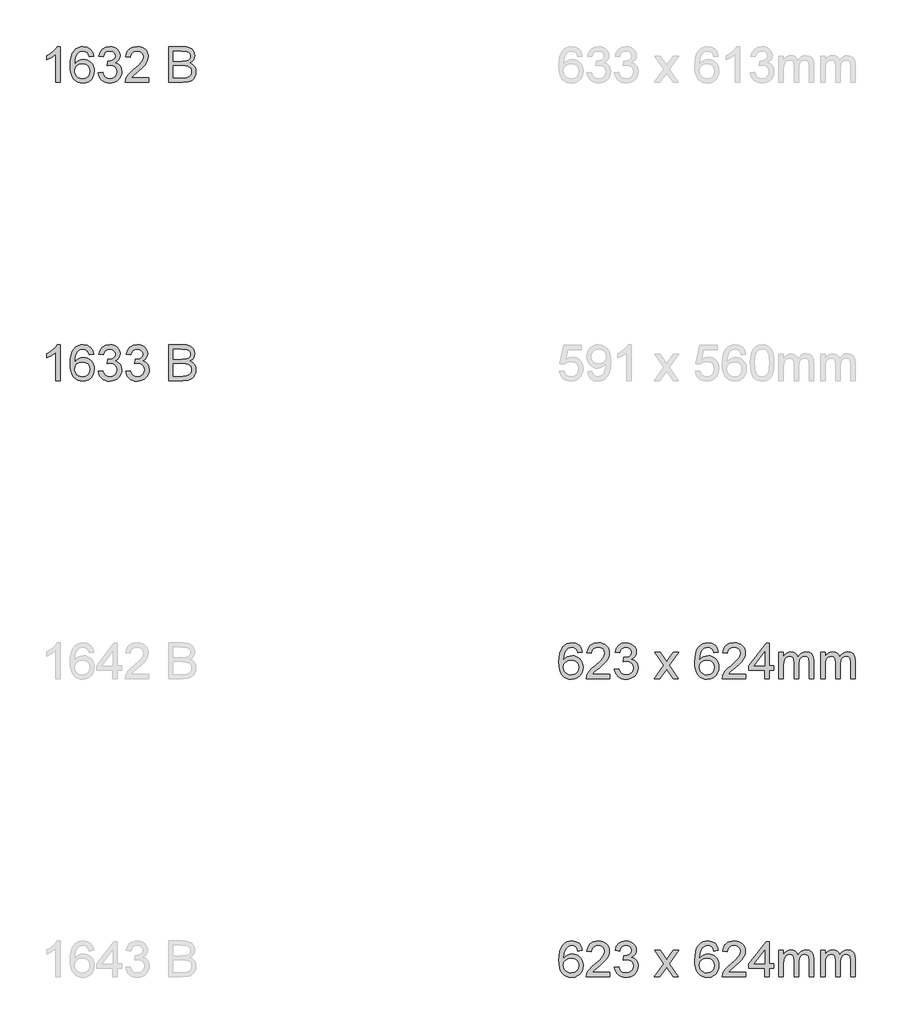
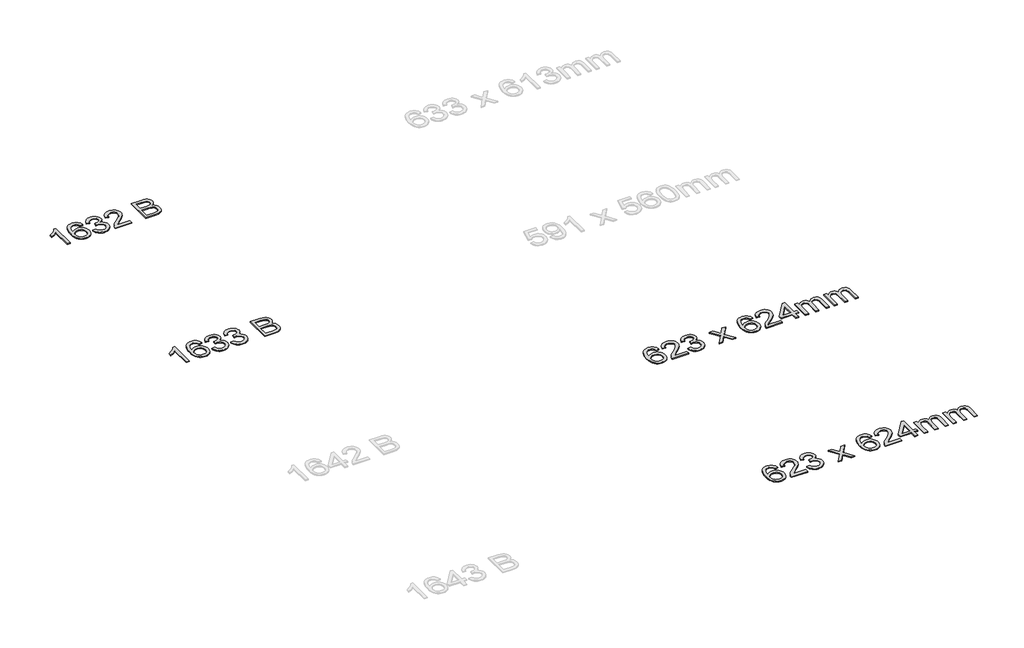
# One storey, part 27 of 39: 4 proxies.
"""IFC4 building model written with IfcOpenShell, lengths in millimetres."""

from ifc_helpers import new_model, si_unit, origin, origin_with_axes, place, context, project, spatial, polyline, outline, extrude, element, save

model = new_model("IFC4")

# Units and contexts
model_context = context("Model", 3, world=origin())
ifc_project = project(units=[si_unit("LENGTHUNIT", "METRE", prefix="MILLI")], contexts=[model_context])

# Site, building, storey
site = spatial("IfcSite", under=ifc_project)
building = spatial("IfcBuilding", under=site)
storey = spatial("IfcBuildingStorey", under=building, Name="Marelli - Linha PROFIT - Planta Baixa", Elevation=0.0)

# Proxies
placement = place(None, origin())
element("IfcBuildingElementProxy", 1, Name="300mm Arial", ObjectType="300mm Arial", at=placement, inside=storey, context=model_context, shape_type="SweptSolid", body=[
    extrude(outline(polyline([(-29517.1779543, -8280.5663201), (-29554.8490706, -8280.5663201), (-29554.8490706, -8045.7104543), (-29590.5336241, -8071.1311002), (-29630.1913032, -8090.1505994), (-29630.1913032, -8054.5396222), (-29600.6043938, -8038.4447849), (-29574.9722158, -8019.2965271), (-29554.7662972, -7998.9342587), (-29541.458166, -7979.1973896), (-29517.1779543, -7979.1973896), (-29517.1779543, -8280.5663201)])), origin_with_axes(), (0.0, 0.0, 1.0), 10.0),
    extrude(outline(polyline([(-29234.644582, -8059.2485118), (-29272.3156983, -8063.9574013), (-29278.3857512, -8045.2873901), (-29286.5895197, -8032.5402789), (-29303.6776384, -8020.7864492), (-29324.3342124, -8016.8685059), (-29341.8453954, -8019.1493743), (-29358.3265088, -8025.9919794), (-29372.4807686, -8040.4037566), (-29384.0414603, -8060.2417932), (-29391.8497556, -8088.3019923), (-29394.7468263, -8127.3802573), (-29379.6360734, -8109.7495127), (-29361.5270821, -8097.3242983), (-29341.4315282, -8089.9574613), (-29320.3610869, -8087.501849), (-29302.2612927, -8089.1803106), (-29285.5594501, -8094.2156954), (-29270.2555591, -8102.6080034), (-29256.3496197, -8114.3572346), (-29244.7935266, -8128.7644133), (-29236.5391743, -8145.1305635), (-29231.5865629, -8163.4556854), (-29229.9356925, -8183.7397789), (-29233.0442953, -8210.7147262), (-29242.3701039, -8235.7215049), (-29257.140566, -8256.9299019), (-29276.5831295, -8272.5097044), (-29299.8148775, -8282.0838333), (-29325.9528932, -8285.2752096), (-29348.4097898, -8283.1598881), (-29368.691584, -8276.8139237), (-29386.798276, -8266.2373164), (-29402.7298656, -8251.4300661), (-29415.7183993, -8231.7667734), (-29424.9959234, -8206.622039), (-29430.5624378, -8175.9958629), (-29432.4179426, -8139.8882451), (-29430.3578034, -8099.4074301), (-29424.1773859, -8064.8587122), (-29413.8766901, -8036.2420915), (-29399.4557159, -8013.557568), (-29383.8253296, -7998.5249899), (-29365.7025428, -7987.7874342), (-29345.0873555, -7981.3449008), (-29321.9797677, -7979.1973896), (-29288.9255704, -7984.5132844), (-29262.4564608, -8000.4609689), (-29243.9152083, -8025.7896443), (-29234.644582, -8059.2485118)]), holes=[polyline([(-29394.7468263, -8183.1511677), (-29392.5671255, -8199.8438133), (-29386.028023, -8215.7823007), (-29375.87448, -8229.485905), (-29362.8514573, -8239.4739012), (-29347.1336991, -8245.5715453), (-29328.8959492, -8247.6040933), (-29304.0363234, -8243.3918445), (-29284.4925924, -8230.7550979), (-29271.8282547, -8210.8894702), (-29267.6068088, -8184.9905777), (-29271.7730724, -8160.1309519), (-29284.2718632, -8141.1758321), (-29304.146688, -8129.173682), (-29330.4410536, -8125.1729653), (-29355.2638912, -8129.173682), (-29376.0216328, -8141.1758321), (-29390.0655279, -8159.6710994), (-29394.7468263, -8183.1511677)])]), origin_with_axes(), (0.0, 0.0, 1.0), 10.0),
    extrude(outline(polyline([(-29196.9734657, -8200.5151979), (-29159.3023494, -8195.8063084), (-29150.8686547, -8219.4795148), (-29138.5170167, -8235.4639875), (-29121.6404301, -8244.5690668), (-29099.6318898, -8247.6040933), (-29073.8065737, -8243.4286327), (-29053.8673696, -8230.9022507), (-29041.1202585, -8212.2138454), (-29036.8712214, -8189.5523145), (-29041.0834703, -8168.0404148), (-29053.7202168, -8150.5936112), (-29072.8500805, -8139.0329195), (-29096.541681, -8135.1793556), (-29122.9556083, -8139.2996339), (-29118.7617535, -8101.6285176), (-29112.7284888, -8102.069976), (-29090.1589284, -8099.3660433), (-29069.980601, -8091.2542454), (-29055.7435678, -8077.5322469), (-29050.99789, -8057.997713), (-29054.4375867, -8041.7281317), (-29064.7566766, -8028.5303652), (-29080.502026, -8019.7839707), (-29100.220501, -8016.8685059), (-29119.9757641, -8019.8115619), (-29136.1257837, -8028.6407298), (-29147.9164016, -8043.3560096), (-29154.5934599, -8063.9574013), (-29192.2645762, -8059.2485118), (-29181.172934, -8025.4217623), (-29161.436065, -8000.1666633), (-29134.4335265, -7984.4397081), (-29101.5448762, -7979.1973896), (-29077.8624727, -7981.7817606), (-29056.1114498, -7989.5348737), (-29037.7725323, -8001.76695), (-29024.3264454, -8017.7882109), (-29016.0766916, -8036.24669), (-29013.3267737, -8055.790421), (-29015.9387359, -8074.0005798), (-29023.7746224, -8090.5184814), (-29036.7240686, -8104.5899677), (-29054.67671, -8115.4608806), (-29031.0954741, -8124.9890243), (-29013.6210793, -8141.2126203), (-29002.8053487, -8163.2487518), (-28999.2001051, -8190.2145021), (-29001.0027269, -8209.3259717), (-29006.4105922, -8226.9291252), (-29015.4237011, -8243.0239625), (-29028.0420535, -8257.6104836), (-29043.4149224, -8269.7138012), (-29060.6915806, -8278.3590281), (-29079.8720281, -8283.5461642), (-29100.956265, -8285.2752096), (-29120.0125523, -8283.7990831), (-29137.3765825, -8279.3707036), (-29153.0483555, -8271.9900711), (-29167.0278713, -8261.6571855), (-29178.7495114, -8248.9790523), (-29187.6476571, -8234.5626766), (-29193.7223086, -8218.4080585), (-29196.9734657, -8200.5151979)])), origin_with_axes(), (0.0, 0.0, 1.0), 10.0),
    extrude(outline(polyline([(-28773.1734073, -8242.8952038), (-28773.1734073, -8280.5663201), (-28970.9467679, -8280.5663201), (-28966.9000659, -8254.5938512), (-28957.6110455, -8234.2959621), (-28944.0178058, -8214.6050783), (-28924.3545132, -8193.9944896), (-28896.855334, -8170.9374855), (-28856.2043736, -8134.8298677), (-28831.8137973, -8108.1768171), (-28819.6185092, -8086.5453558), (-28815.5534131, -8065.5025057), (-28819.3885829, -8046.6393564), (-28830.8940923, -8030.9583863), (-28848.5800192, -8020.390976), (-28870.9564416, -8016.8685059), (-28894.454904, -8020.3082026), (-28912.711048, -8030.6272925), (-28924.4924689, -8047.0164354), (-28928.566762, -8068.6662908), (-28966.2378783, -8063.9574013), (-28957.1052078, -8027.5186897), (-28948.5588492, -8012.9827524), (-28937.3591417, -8000.9024273), (-28923.7636027, -7991.4064733), (-28908.0297496, -7984.623649), (-28870.1471012, -7979.1973896), (-28849.9572774, -7980.7057058), (-28831.9885412, -7985.2306543), (-28816.2408926, -7992.7722352), (-28802.7143315, -8003.3304485), (-28791.8503163, -8016.1235449), (-28784.0903055, -8030.3697751), (-28779.434299, -8046.0691393), (-28777.8822968, -8063.2216373), (-28779.5561599, -8081.238658), (-28784.5777491, -8098.942979), (-28793.4896904, -8116.9508027), (-28806.8346098, -8135.8783314), (-28828.1073862, -8158.4754829), (-28860.8028985, -8187.4921753), (-28904.1393975, -8223.7285518), (-28921.1355457, -8242.8952038), (-28773.1734073, -8242.8952038)])), origin_with_axes(), (0.0, 0.0, 1.0), 10.0),
    extrude(outline(polyline([(-28603.6533839, -8280.5663201), (-28603.6533839, -7979.1973896), (-28488.6534722, -7979.1973896), (-28457.0248177, -7981.4138786), (-28432.3307387, -7988.0633457), (-28413.4032101, -7999.3113377), (-28399.0742064, -8015.3234015), (-28390.0519004, -8034.1589597), (-28387.0444651, -8053.8774346), (-28389.5736538, -8072.0232141), (-28397.16122, -8089.0837416), (-28409.8623459, -8104.0105535), (-28427.7322138, -8115.7551862), (-28406.385861, -8126.9020107), (-28390.6129205, -8143.8613707), (-28380.8732447, -8165.5112261), (-28377.626686, -8190.7295368), (-28379.8431751, -8211.7447958), (-28386.4926421, -8231.2333445), (-28396.416259, -8247.8064284), (-28408.4551972, -8260.0752929), (-28423.1980682, -8268.9596431), (-28441.233483, -8275.3791839), (-28489.536389, -8280.5663201), (-28603.6533839, -8280.5663201)]), holes=[polyline([(-28565.9822676, -8101.6285176), (-28497.1883345, -8101.6285176), (-28457.0156206, -8098.3911561), (-28442.9533313, -8092.8085468), (-28432.8457735, -8084.4484284), (-28426.7481295, -8073.4395597), (-28424.7155814, -8059.9106994), (-28426.6101737, -8046.7773121), (-28432.2939505, -8035.3361821), (-28441.5093945, -8026.4058467), (-28453.9989882, -8020.8048433), (-28502.4122588, -8016.8685059), (-28565.9822676, -8016.8685059), (-28565.9822676, -8101.6285176)]), polyline([(-28565.9822676, -8242.8952038), (-28488.7270486, -8242.8952038), (-28460.768017, -8241.4236758), (-28437.1132047, -8233.2199073), (-28421.4414317, -8216.4812765), (-28416.8337097, -8204.6538704), (-28415.2978024, -8191.0974188), (-28417.1004241, -8175.3520694), (-28422.5082895, -8161.814012), (-28431.9536597, -8151.2282076), (-28445.8687962, -8144.3396173), (-28465.578074, -8140.5596298), (-28492.4058685, -8139.2996339), (-28565.9822676, -8139.2996339), (-28565.9822676, -8242.8952038)])]), origin_with_axes(), (0.0, 0.0, 1.0), 10.0),
])
element("IfcBuildingElementProxy", 2, Name="300mm Arial", ObjectType="300mm Arial", at=placement, inside=storey, context=model_context, shape_type="SweptSolid", body=[
    extrude(outline(polyline([(-29517.1779543, -10780.5663201), (-29554.8490706, -10780.5663201), (-29554.8490706, -10545.7104543), (-29590.5336241, -10571.1311002), (-29630.1913032, -10590.1505994), (-29630.1913032, -10554.5396222), (-29600.6043938, -10538.4447849), (-29574.9722158, -10519.2965271), (-29554.7662972, -10498.9342587), (-29541.458166, -10479.1973896), (-29517.1779543, -10479.1973896), (-29517.1779543, -10780.5663201)])), origin_with_axes(), (0.0, 0.0, 1.0), 10.0),
    extrude(outline(polyline([(-29234.644582, -10559.2485118), (-29272.3156983, -10563.9574013), (-29278.3857512, -10545.2873901), (-29286.5895197, -10532.5402789), (-29303.6776384, -10520.7864492), (-29324.3342124, -10516.8685059), (-29341.8453954, -10519.1493743), (-29358.3265088, -10525.9919794), (-29372.4807686, -10540.4037566), (-29384.0414603, -10560.2417932), (-29391.8497556, -10588.3019923), (-29394.7468263, -10627.3802573), (-29379.6360734, -10609.7495127), (-29361.5270821, -10597.3242983), (-29341.4315282, -10589.9574613), (-29320.3610869, -10587.501849), (-29302.2612927, -10589.1803106), (-29285.5594501, -10594.2156954), (-29270.2555591, -10602.6080034), (-29256.3496197, -10614.3572346), (-29244.7935266, -10628.7644133), (-29236.5391743, -10645.1305635), (-29231.5865629, -10663.4556854), (-29229.9356925, -10683.7397789), (-29233.0442953, -10710.7147262), (-29242.3701039, -10735.7215049), (-29257.140566, -10756.9299019), (-29276.5831295, -10772.5097044), (-29299.8148775, -10782.0838333), (-29325.9528932, -10785.2752096), (-29348.4097898, -10783.1598881), (-29368.691584, -10776.8139237), (-29386.798276, -10766.2373164), (-29402.7298656, -10751.4300661), (-29415.7183993, -10731.7667734), (-29424.9959234, -10706.622039), (-29430.5624378, -10675.9958629), (-29432.4179426, -10639.8882451), (-29430.3578034, -10599.4074301), (-29424.1773859, -10564.8587122), (-29413.8766901, -10536.2420915), (-29399.4557159, -10513.557568), (-29383.8253296, -10498.5249899), (-29365.7025428, -10487.7874342), (-29345.0873555, -10481.3449008), (-29321.9797677, -10479.1973896), (-29288.9255704, -10484.5132844), (-29262.4564608, -10500.4609689), (-29243.9152083, -10525.7896443), (-29234.644582, -10559.2485118)]), holes=[polyline([(-29394.7468263, -10683.1511677), (-29392.5671255, -10699.8438133), (-29386.028023, -10715.7823007), (-29375.87448, -10729.485905), (-29362.8514573, -10739.4739012), (-29347.1336991, -10745.5715453), (-29328.8959492, -10747.6040933), (-29304.0363234, -10743.3918445), (-29284.4925924, -10730.7550979), (-29271.8282547, -10710.8894702), (-29267.6068088, -10684.9905777), (-29271.7730724, -10660.1309519), (-29284.2718632, -10641.1758321), (-29304.146688, -10629.173682), (-29330.4410536, -10625.1729653), (-29355.2638912, -10629.173682), (-29376.0216328, -10641.1758321), (-29390.0655279, -10659.6710994), (-29394.7468263, -10683.1511677)])]), origin_with_axes(), (0.0, 0.0, 1.0), 10.0),
    extrude(outline(polyline([(-29196.9734657, -10700.5151979), (-29159.3023494, -10695.8063084), (-29150.8686547, -10719.4795148), (-29138.5170167, -10735.4639875), (-29121.6404301, -10744.5690668), (-29099.6318898, -10747.6040933), (-29073.8065737, -10743.4286327), (-29053.8673696, -10730.9022507), (-29041.1202585, -10712.2138454), (-29036.8712214, -10689.5523145), (-29041.0834703, -10668.0404148), (-29053.7202168, -10650.5936112), (-29072.8500805, -10639.0329195), (-29096.541681, -10635.1793556), (-29122.9556083, -10639.2996339), (-29118.7617535, -10601.6285176), (-29112.7284888, -10602.069976), (-29090.1589284, -10599.3660433), (-29069.980601, -10591.2542454), (-29055.7435678, -10577.5322469), (-29050.99789, -10557.997713), (-29054.4375867, -10541.7281317), (-29064.7566766, -10528.5303652), (-29080.502026, -10519.7839707), (-29100.220501, -10516.8685059), (-29119.9757641, -10519.8115619), (-29136.1257837, -10528.6407298), (-29147.9164016, -10543.3560096), (-29154.5934599, -10563.9574013), (-29192.2645762, -10559.2485118), (-29181.172934, -10525.4217623), (-29161.436065, -10500.1666633), (-29134.4335265, -10484.4397081), (-29101.5448762, -10479.1973896), (-29077.8624727, -10481.7817606), (-29056.1114498, -10489.5348737), (-29037.7725323, -10501.76695), (-29024.3264454, -10517.7882109), (-29016.0766916, -10536.24669), (-29013.3267737, -10555.790421), (-29015.9387359, -10574.0005798), (-29023.7746224, -10590.5184814), (-29036.7240686, -10604.5899677), (-29054.67671, -10615.4608806), (-29031.0954741, -10624.9890243), (-29013.6210793, -10641.2126203), (-29002.8053487, -10663.2487518), (-28999.2001051, -10690.2145021), (-29001.0027269, -10709.3259717), (-29006.4105922, -10726.9291252), (-29015.4237011, -10743.0239625), (-29028.0420535, -10757.6104836), (-29043.4149224, -10769.7138012), (-29060.6915806, -10778.3590281), (-29079.8720281, -10783.5461642), (-29100.956265, -10785.2752096), (-29120.0125523, -10783.7990831), (-29137.3765825, -10779.3707036), (-29153.0483555, -10771.9900711), (-29167.0278713, -10761.6571855), (-29178.7495114, -10748.9790523), (-29187.6476571, -10734.5626766), (-29193.7223086, -10718.4080585), (-29196.9734657, -10700.5151979)])), origin_with_axes(), (0.0, 0.0, 1.0), 10.0),
    extrude(outline(polyline([(-28966.2378783, -10700.5151979), (-28928.566762, -10695.8063084), (-28920.1330673, -10719.4795148), (-28907.7814293, -10735.4639875), (-28890.9048428, -10744.5690668), (-28868.8963024, -10747.6040933), (-28843.0709863, -10743.4286327), (-28823.1317822, -10730.9022507), (-28810.3846711, -10712.2138454), (-28806.135634, -10689.5523145), (-28810.3478829, -10668.0404148), (-28822.9846294, -10650.5936112), (-28842.1144932, -10639.0329195), (-28865.8060936, -10635.1793556), (-28892.2200209, -10639.2996339), (-28888.0261662, -10601.6285176), (-28881.9929014, -10602.069976), (-28859.423341, -10599.3660433), (-28839.2450136, -10591.2542454), (-28825.0079804, -10577.5322469), (-28820.2623026, -10557.997713), (-28823.7019993, -10541.7281317), (-28834.0210893, -10528.5303652), (-28849.7664387, -10519.7839707), (-28869.4849136, -10516.8685059), (-28889.2401767, -10519.8115619), (-28905.3901963, -10528.6407298), (-28917.1808143, -10543.3560096), (-28923.8578725, -10563.9574013), (-28961.5289888, -10559.2485118), (-28950.4373466, -10525.4217623), (-28930.7004776, -10500.1666633), (-28903.6979392, -10484.4397081), (-28870.8092888, -10479.1973896), (-28847.1268853, -10481.7817606), (-28825.3758624, -10489.5348737), (-28807.0369449, -10501.76695), (-28793.590858, -10517.7882109), (-28785.3411043, -10536.24669), (-28782.5911863, -10555.790421), (-28785.2031485, -10574.0005798), (-28793.039035, -10590.5184814), (-28805.9884812, -10604.5899677), (-28823.9411226, -10615.4608806), (-28800.3598867, -10624.9890243), (-28782.8854919, -10641.2126203), (-28772.0697613, -10663.2487518), (-28768.4645177, -10690.2145021), (-28770.2671395, -10709.3259717), (-28775.6750048, -10726.9291252), (-28784.6881137, -10743.0239625), (-28797.3064661, -10757.6104836), (-28812.679335, -10769.7138012), (-28829.9559932, -10778.3590281), (-28849.1364407, -10783.5461642), (-28870.2206776, -10785.2752096), (-28889.2769649, -10783.7990831), (-28906.6409951, -10779.3707036), (-28922.3127681, -10771.9900711), (-28936.2922839, -10761.6571855), (-28948.013924, -10748.9790523), (-28956.9120698, -10734.5626766), (-28962.9867212, -10718.4080585), (-28966.2378783, -10700.5151979)])), origin_with_axes(), (0.0, 0.0, 1.0), 10.0),
    extrude(outline(polyline([(-28603.6533839, -10780.5663201), (-28603.6533839, -10479.1973896), (-28488.6534722, -10479.1973896), (-28457.0248177, -10481.4138786), (-28432.3307387, -10488.0633457), (-28413.4032101, -10499.3113377), (-28399.0742064, -10515.3234015), (-28390.0519004, -10534.1589597), (-28387.0444651, -10553.8774346), (-28389.5736538, -10572.0232141), (-28397.16122, -10589.0837416), (-28409.8623459, -10604.0105535), (-28427.7322138, -10615.7551862), (-28406.385861, -10626.9020107), (-28390.6129205, -10643.8613707), (-28380.8732447, -10665.5112261), (-28377.626686, -10690.7295368), (-28379.8431751, -10711.7447958), (-28386.4926421, -10731.2333445), (-28396.416259, -10747.8064284), (-28408.4551972, -10760.0752929), (-28423.1980682, -10768.9596431), (-28441.233483, -10775.3791839), (-28489.536389, -10780.5663201), (-28603.6533839, -10780.5663201)]), holes=[polyline([(-28565.9822676, -10601.6285176), (-28497.1883345, -10601.6285176), (-28457.0156206, -10598.3911561), (-28442.9533313, -10592.8085468), (-28432.8457735, -10584.4484284), (-28426.7481295, -10573.4395597), (-28424.7155814, -10559.9106994), (-28426.6101737, -10546.7773121), (-28432.2939505, -10535.3361821), (-28441.5093945, -10526.4058467), (-28453.9989882, -10520.8048433), (-28502.4122588, -10516.8685059), (-28565.9822676, -10516.8685059), (-28565.9822676, -10601.6285176)]), polyline([(-28565.9822676, -10742.8952038), (-28488.7270486, -10742.8952038), (-28460.768017, -10741.4236758), (-28437.1132047, -10733.2199073), (-28421.4414317, -10716.4812765), (-28416.8337097, -10704.6538704), (-28415.2978024, -10691.0974188), (-28417.1004241, -10675.3520694), (-28422.5082895, -10661.814012), (-28431.9536597, -10651.2282076), (-28445.8687962, -10644.3396173), (-28465.578074, -10640.5596298), (-28492.4058685, -10639.2996339), (-28565.9822676, -10639.2996339), (-28565.9822676, -10742.8952038)])]), origin_with_axes(), (0.0, 0.0, 1.0), 10.0),
])
element("IfcBuildingElementProxy", 3, Name="300mm Arial", ObjectType="300mm Arial", at=placement, inside=storey, context=model_context, shape_type="SweptSolid", body=[
    extrude(outline(polyline([(-25136.3969286, -13059.2485118), (-25174.0680449, -13063.9574013), (-25180.1380978, -13045.2873901), (-25188.3418663, -13032.5402789), (-25205.429985, -13020.7864492), (-25226.086559, -13016.8685059), (-25243.597742, -13019.1493743), (-25260.0788554, -13025.9919794), (-25274.2331151, -13040.4037566), (-25285.7938068, -13060.2417932), (-25293.6021022, -13088.3019923), (-25296.4991729, -13127.3802573), (-25281.3884199, -13109.7495127), (-25263.2794287, -13097.3242983), (-25243.1838747, -13089.9574613), (-25222.1134335, -13087.501849), (-25204.0136393, -13089.1803106), (-25187.3117967, -13094.2156954), (-25172.0079057, -13102.6080034), (-25158.1019663, -13114.3572346), (-25146.5458731, -13128.7644133), (-25138.2915209, -13145.1305635), (-25133.3389095, -13163.4556854), (-25131.6880391, -13183.7397789), (-25134.7966419, -13210.7147262), (-25144.1224505, -13235.7215049), (-25158.8929126, -13256.9299019), (-25178.335476, -13272.5097044), (-25201.567224, -13282.0838333), (-25227.7052398, -13285.2752096), (-25250.1621363, -13283.1598881), (-25270.4439306, -13276.8139237), (-25288.5506225, -13266.2373164), (-25304.4822122, -13251.4300661), (-25317.4707459, -13231.7667734), (-25326.7482699, -13206.622039), (-25332.3147844, -13175.9958629), (-25334.1702892, -13139.8882451), (-25332.11015, -13099.4074301), (-25325.9297325, -13064.8587122), (-25315.6290366, -13036.2420915), (-25301.2080624, -13013.557568), (-25285.5776762, -12998.5249899), (-25267.4548894, -12987.7874342), (-25246.8397021, -12981.3449008), (-25223.7321142, -12979.1973896), (-25190.677917, -12984.5132844), (-25164.2088074, -13000.4609689), (-25145.6675549, -13025.7896443), (-25136.3969286, -13059.2485118)]), holes=[polyline([(-25296.4991729, -13183.1511677), (-25294.3194721, -13199.8438133), (-25287.7803696, -13215.7823007), (-25277.6268265, -13229.485905), (-25264.6038039, -13239.4739012), (-25248.8860457, -13245.5715453), (-25230.6482958, -13247.6040933), (-25205.7886699, -13243.3918445), (-25186.2449389, -13230.7550979), (-25173.5806013, -13210.8894702), (-25169.3591554, -13184.9905777), (-25173.525419, -13160.1309519), (-25186.0242097, -13141.1758321), (-25205.8990345, -13129.173682), (-25232.1934001, -13125.1729653), (-25257.0162378, -13129.173682), (-25277.7739793, -13141.1758321), (-25291.8178745, -13159.6710994), (-25296.4991729, -13183.1511677)])]), origin_with_axes(), (0.0, 0.0, 1.0), 10.0),
    extrude(outline(polyline([(-24905.6613412, -13242.8952038), (-24905.6613412, -13280.5663201), (-25103.4347018, -13280.5663201), (-25099.3879999, -13254.5938512), (-25090.0989795, -13234.2959621), (-25076.5057398, -13214.6050783), (-25056.8424471, -13193.9944896), (-25029.343268, -13170.9374855), (-24988.6923075, -13134.8298677), (-24964.3017312, -13108.1768171), (-24952.1064431, -13086.5453558), (-24948.0413471, -13065.5025057), (-24951.8765169, -13046.6393564), (-24963.3820263, -13030.9583863), (-24981.0679532, -13020.390976), (-25003.4443755, -13016.8685059), (-25026.942838, -13020.3082026), (-25045.198982, -13030.6272925), (-25056.9804029, -13047.0164354), (-25061.054696, -13068.6662908), (-25098.7258123, -13063.9574013), (-25089.5931418, -13027.5186897), (-25081.0467832, -13012.9827524), (-25069.8470757, -13000.9024273), (-25056.2515367, -12991.4064733), (-25040.5176836, -12984.623649), (-25002.6350351, -12979.1973896), (-24982.4452114, -12980.7057058), (-24964.4764752, -12985.2306543), (-24948.7288265, -12992.7722352), (-24935.2022654, -13003.3304485), (-24924.3382503, -13016.1235449), (-24916.5782394, -13030.3697751), (-24911.9222329, -13046.0691393), (-24910.3702308, -13063.2216373), (-24912.0440938, -13081.238658), (-24917.0656831, -13098.942979), (-24925.9776244, -13116.9508027), (-24939.3225438, -13135.8783314), (-24960.5953201, -13158.4754829), (-24993.2908325, -13187.4921753), (-25036.6273315, -13223.7285518), (-25053.6234797, -13242.8952038), (-24905.6613412, -13242.8952038)])), origin_with_axes(), (0.0, 0.0, 1.0), 10.0),
    extrude(outline(polyline([(-24867.9902249, -13200.5151979), (-24830.3191086, -13195.8063084), (-24821.8854139, -13219.4795148), (-24809.5337759, -13235.4639875), (-24792.6571893, -13244.5690668), (-24770.648649, -13247.6040933), (-24744.8233329, -13243.4286327), (-24724.8841288, -13230.9022507), (-24712.1370177, -13212.2138454), (-24707.8879806, -13189.5523145), (-24712.1002295, -13168.0404148), (-24724.736976, -13150.5936112), (-24743.8668397, -13139.0329195), (-24767.5584402, -13135.1793556), (-24793.9723675, -13139.2996339), (-24789.7785127, -13101.6285176), (-24783.745248, -13102.069976), (-24761.1756876, -13099.3660433), (-24740.9973602, -13091.2542454), (-24726.760327, -13077.5322469), (-24722.0146492, -13057.997713), (-24725.4543459, -13041.7281317), (-24735.7734358, -13028.5303652), (-24751.5187852, -13019.7839707), (-24771.2372602, -13016.8685059), (-24790.9925233, -13019.8115619), (-24807.1425429, -13028.6407298), (-24818.9331609, -13043.3560096), (-24825.6102191, -13063.9574013), (-24863.2813354, -13059.2485118), (-24852.1896932, -13025.4217623), (-24832.4528242, -13000.1666633), (-24805.4502857, -12984.4397081), (-24772.5616354, -12979.1973896), (-24748.8792319, -12981.7817606), (-24727.128209, -12989.5348737), (-24708.7892915, -13001.76695), (-24695.3432046, -13017.7882109), (-24687.0934508, -13036.24669), (-24684.3435329, -13055.790421), (-24686.9554951, -13074.0005798), (-24694.7913816, -13090.5184814), (-24707.7408278, -13104.5899677), (-24725.6934692, -13115.4608806), (-24702.1122333, -13124.9890243), (-24684.6378385, -13141.2126203), (-24673.8221079, -13163.2487518), (-24670.2168643, -13190.2145021), (-24672.0194861, -13209.3259717), (-24677.4273514, -13226.9291252), (-24686.4404603, -13243.0239625), (-24699.0588127, -13257.6104836), (-24714.4316816, -13269.7138012), (-24731.7083398, -13278.3590281), (-24750.8887873, -13283.5461642), (-24771.9730242, -13285.2752096), (-24791.0293115, -13283.7990831), (-24808.3933417, -13279.3707036), (-24824.0651147, -13271.9900711), (-24838.0446305, -13261.6571855), (-24849.7662706, -13248.9790523), (-24858.6644163, -13234.5626766), (-24864.7390678, -13218.4080585), (-24867.9902249, -13200.5151979)])), origin_with_axes(), (0.0, 0.0, 1.0), 10.0),
    extrude(outline(polyline([(-24533.6590677, -13280.5663201), (-24453.1664871, -13169.3188047), (-24528.9501782, -13059.2485118), (-24483.6271163, -13059.2485118), (-24447.059646, -13112.2235191), (-24429.9899215, -13137.2394947), (-24415.2010652, -13116.7852558), (-24373.5568234, -13059.2485118), (-24328.2337616, -13059.2485118), (-24407.8434253, -13169.3188047), (-24331.1768175, -13280.5663201), (-24376.4998794, -13280.5663201), (-24422.6322815, -13213.6853733), (-24431.0935674, -13201.4716911), (-24488.3360059, -13280.5663201), (-24533.6590677, -13280.5663201)])), origin_with_axes(), (0.0, 0.0, 1.0), 10.0),
    extrude(outline(polyline([(-23996.8456603, -13059.2485118), (-24034.5167766, -13063.9574013), (-24040.5868296, -13045.2873901), (-24048.790598, -13032.5402789), (-24065.8787167, -13020.7864492), (-24086.5352908, -13016.8685059), (-24104.0464737, -13019.1493743), (-24120.5275871, -13025.9919794), (-24134.6818469, -13040.4037566), (-24146.2425386, -13060.2417932), (-24154.0508339, -13088.3019923), (-24156.9479046, -13127.3802573), (-24141.8371517, -13109.7495127), (-24123.7281605, -13097.3242983), (-24103.6326065, -13089.9574613), (-24082.5621652, -13087.501849), (-24064.462371, -13089.1803106), (-24047.7605285, -13094.2156954), (-24032.4566375, -13102.6080034), (-24018.550698, -13114.3572346), (-24006.9946049, -13128.7644133), (-23998.7402526, -13145.1305635), (-23993.7876412, -13163.4556854), (-23992.1367708, -13183.7397789), (-23995.2453737, -13210.7147262), (-24004.5711822, -13235.7215049), (-24019.3416443, -13256.9299019), (-24038.7842078, -13272.5097044), (-24062.0159558, -13282.0838333), (-24088.1539715, -13285.2752096), (-24110.6108681, -13283.1598881), (-24130.8926623, -13276.8139237), (-24148.9993543, -13266.2373164), (-24164.9309439, -13251.4300661), (-24177.9194776, -13231.7667734), (-24187.1970017, -13206.622039), (-24192.7635161, -13175.9958629), (-24194.6190209, -13139.8882451), (-24192.5588818, -13099.4074301), (-24186.3784642, -13064.8587122), (-24176.0777684, -13036.2420915), (-24161.6567942, -13013.557568), (-24146.0264079, -12998.5249899), (-24127.9036211, -12987.7874342), (-24107.2884338, -12981.3449008), (-24084.180846, -12979.1973896), (-24051.1266487, -12984.5132844), (-24024.6575392, -13000.4609689), (-24006.1162866, -13025.7896443), (-23996.8456603, -13059.2485118)]), holes=[polyline([(-24156.9479046, -13183.1511677), (-24154.7682038, -13199.8438133), (-24148.2291013, -13215.7823007), (-24138.0755583, -13229.485905), (-24125.0525356, -13239.4739012), (-24109.3347774, -13245.5715453), (-24091.0970275, -13247.6040933), (-24066.2374017, -13243.3918445), (-24046.6936707, -13230.7550979), (-24034.029333, -13210.8894702), (-24029.8078871, -13184.9905777), (-24033.9741507, -13160.1309519), (-24046.4729415, -13141.1758321), (-24066.3477663, -13129.173682), (-24092.6421319, -13125.1729653), (-24117.4649695, -13129.173682), (-24138.2227111, -13141.1758321), (-24152.2666062, -13159.6710994), (-24156.9479046, -13183.1511677)])]), origin_with_axes(), (0.0, 0.0, 1.0), 10.0),
    extrude(outline(polyline([(-23766.110073, -13242.8952038), (-23766.110073, -13280.5663201), (-23963.8834336, -13280.5663201), (-23959.8367316, -13254.5938512), (-23950.5477112, -13234.2959621), (-23936.9544715, -13214.6050783), (-23917.2911789, -13193.9944896), (-23889.7919997, -13170.9374855), (-23849.1410393, -13134.8298677), (-23824.750463, -13108.1768171), (-23812.5551748, -13086.5453558), (-23808.4900788, -13065.5025057), (-23812.3252486, -13046.6393564), (-23823.830758, -13030.9583863), (-23841.5166849, -13020.390976), (-23863.8931073, -13016.8685059), (-23887.3915697, -13020.3082026), (-23905.6477137, -13030.6272925), (-23917.4291346, -13047.0164354), (-23921.5034277, -13068.6662908), (-23959.174544, -13063.9574013), (-23950.0418735, -13027.5186897), (-23941.4955149, -13012.9827524), (-23930.2958074, -13000.9024273), (-23916.7002684, -12991.4064733), (-23900.9664153, -12984.623649), (-23863.0837669, -12979.1973896), (-23842.8939431, -12980.7057058), (-23824.9252069, -12985.2306543), (-23809.1775583, -12992.7722352), (-23795.6509972, -13003.3304485), (-23784.786982, -13016.1235449), (-23777.0269712, -13030.3697751), (-23772.3709647, -13046.0691393), (-23770.8189625, -13063.2216373), (-23772.4928256, -13081.238658), (-23777.5144148, -13098.942979), (-23786.4263561, -13116.9508027), (-23799.7712755, -13135.8783314), (-23821.0440519, -13158.4754829), (-23853.7395642, -13187.4921753), (-23897.0760632, -13223.7285518), (-23914.0722114, -13242.8952038), (-23766.110073, -13242.8952038)])), origin_with_axes(), (0.0, 0.0, 1.0), 10.0),
    extrude(outline(polyline([(-23606.0078287, -13280.5663201), (-23606.0078287, -13209.932977), (-23742.5656253, -13209.932977), (-23742.5656253, -13172.2618607), (-23596.5900496, -12983.9062792), (-23568.3367123, -12983.9062792), (-23568.3367123, -13172.2618607), (-23530.665596, -13172.2618607), (-23530.665596, -13209.932977), (-23568.3367123, -13209.932977), (-23568.3367123, -13280.5663201), (-23606.0078287, -13280.5663201)]), holes=[polyline([(-23606.0078287, -13172.2618607), (-23606.0078287, -13055.8639974), (-23696.2124939, -13172.2618607), (-23606.0078287, -13172.2618607)])]), origin_with_axes(), (0.0, 0.0, 1.0), 10.0),
    extrude(outline(polyline([(-23488.2855902, -13280.5663201), (-23488.2855902, -13059.2485118), (-23450.6144739, -13059.2485118), (-23450.6144739, -13095.6688293), (-23439.2837084, -13078.9393956), (-23424.7155814, -13065.8335995), (-23407.4067336, -13057.3631165), (-23387.8538055, -13054.5396222), (-23366.9029259, -13057.4182988), (-23350.1091128, -13066.0543287), (-23337.5643368, -13079.8774946), (-23329.3605683, -13098.3175797), (-23315.6293728, -13079.1647233), (-23299.9667969, -13065.4841116), (-23282.3728404, -13057.2757446), (-23262.8475036, -13054.5396222), (-23234.529787, -13059.0921619), (-23213.5881044, -13072.749781), (-23200.6478552, -13095.8803614), (-23196.3344388, -13128.8517853), (-23196.3344388, -13280.5663201), (-23234.0055551, -13280.5663201), (-23234.0055551, -13145.038593), (-23237.5004341, -13113.5846825), (-23242.4116587, -13104.9118644), (-23250.1555747, -13098.0968505), (-23260.1159797, -13093.6822665), (-23271.6766714, -13092.2107385), (-23292.0849251, -13095.981529), (-23308.7223884, -13107.2939003), (-23319.7864394, -13126.9204048), (-23323.4744564, -13155.6335945), (-23323.4744564, -13280.5663201), (-23361.1455727, -13280.5663201), (-23361.1455727, -13140.8447383), (-23363.3252735, -13119.5443708), (-23369.864376, -13104.3508444), (-23381.3698853, -13095.245765), (-23398.448807, -13092.2107385), (-23412.9617517, -13094.2340895), (-23426.3342622, -13100.3041424), (-23437.3707221, -13110.2737445), (-23444.8755148, -13123.9957429), (-23449.1797341, -13143.0336362), (-23450.6144739, -13168.9509227), (-23450.6144739, -13280.5663201), (-23488.2855902, -13280.5663201)])), origin_with_axes(), (0.0, 0.0, 1.0), 10.0),
    extrude(outline(polyline([(-23139.8277644, -13280.5663201), (-23139.8277644, -13059.2485118), (-23102.1566481, -13059.2485118), (-23102.1566481, -13095.6688293), (-23090.8258826, -13078.9393956), (-23076.2577556, -13065.8335995), (-23058.9489077, -13057.3631165), (-23039.3959797, -13054.5396222), (-23018.4451001, -13057.4182988), (-23001.651287, -13066.0543287), (-22989.1065109, -13079.8774946), (-22980.9027425, -13098.3175797), (-22967.171547, -13079.1647233), (-22951.508971, -13065.4841116), (-22933.9150146, -13057.2757446), (-22914.3896777, -13054.5396222), (-22886.0719611, -13059.0921619), (-22865.1302786, -13072.749781), (-22852.1900294, -13095.8803614), (-22847.876613, -13128.8517853), (-22847.876613, -13280.5663201), (-22885.5477293, -13280.5663201), (-22885.5477293, -13145.038593), (-22889.0426083, -13113.5846825), (-22893.9538329, -13104.9118644), (-22901.6977489, -13098.0968505), (-22911.6581539, -13093.6822665), (-22923.2188456, -13092.2107385), (-22943.6270993, -13095.981529), (-22960.2645625, -13107.2939003), (-22971.3286135, -13126.9204048), (-22975.0166305, -13155.6335945), (-22975.0166305, -13280.5663201), (-23012.6877468, -13280.5663201), (-23012.6877468, -13140.8447383), (-23014.8674477, -13119.5443708), (-23021.4065501, -13104.3508444), (-23032.9120595, -13095.245765), (-23049.9909811, -13092.2107385), (-23064.5039259, -13094.2340895), (-23077.8764364, -13100.3041424), (-23088.9128962, -13110.2737445), (-23096.4176889, -13123.9957429), (-23100.7219083, -13143.0336362), (-23102.1566481, -13168.9509227), (-23102.1566481, -13280.5663201), (-23139.8277644, -13280.5663201)])), origin_with_axes(), (0.0, 0.0, 1.0), 10.0),
])
element("IfcBuildingElementProxy", 4, Name="300mm Arial", ObjectType="300mm Arial", at=placement, inside=storey, context=model_context, shape_type="SweptSolid", body=[
    extrude(outline(polyline([(-25136.3969286, -15559.2485118), (-25174.0680449, -15563.9574013), (-25180.1380978, -15545.2873901), (-25188.3418663, -15532.5402789), (-25205.429985, -15520.7864492), (-25226.086559, -15516.8685059), (-25243.597742, -15519.1493743), (-25260.0788554, -15525.9919794), (-25274.2331151, -15540.4037566), (-25285.7938068, -15560.2417932), (-25293.6021022, -15588.3019923), (-25296.4991729, -15627.3802573), (-25281.3884199, -15609.7495127), (-25263.2794287, -15597.3242983), (-25243.1838747, -15589.9574613), (-25222.1134335, -15587.501849), (-25204.0136393, -15589.1803106), (-25187.3117967, -15594.2156954), (-25172.0079057, -15602.6080034), (-25158.1019663, -15614.3572346), (-25146.5458731, -15628.7644133), (-25138.2915209, -15645.1305635), (-25133.3389095, -15663.4556854), (-25131.6880391, -15683.7397789), (-25134.7966419, -15710.7147262), (-25144.1224505, -15735.7215049), (-25158.8929126, -15756.9299019), (-25178.335476, -15772.5097044), (-25201.567224, -15782.0838333), (-25227.7052398, -15785.2752096), (-25250.1621363, -15783.1598881), (-25270.4439306, -15776.8139237), (-25288.5506225, -15766.2373164), (-25304.4822122, -15751.4300661), (-25317.4707459, -15731.7667734), (-25326.7482699, -15706.622039), (-25332.3147844, -15675.9958629), (-25334.1702892, -15639.8882451), (-25332.11015, -15599.4074301), (-25325.9297325, -15564.8587122), (-25315.6290366, -15536.2420915), (-25301.2080624, -15513.557568), (-25285.5776762, -15498.5249899), (-25267.4548894, -15487.7874342), (-25246.8397021, -15481.3449008), (-25223.7321142, -15479.1973896), (-25190.677917, -15484.5132844), (-25164.2088074, -15500.4609689), (-25145.6675549, -15525.7896443), (-25136.3969286, -15559.2485118)]), holes=[polyline([(-25296.4991729, -15683.1511677), (-25294.3194721, -15699.8438133), (-25287.7803696, -15715.7823007), (-25277.6268265, -15729.485905), (-25264.6038039, -15739.4739012), (-25248.8860457, -15745.5715453), (-25230.6482958, -15747.6040933), (-25205.7886699, -15743.3918445), (-25186.2449389, -15730.7550979), (-25173.5806013, -15710.8894702), (-25169.3591554, -15684.9905777), (-25173.525419, -15660.1309519), (-25186.0242097, -15641.1758321), (-25205.8990345, -15629.173682), (-25232.1934001, -15625.1729653), (-25257.0162378, -15629.173682), (-25277.7739793, -15641.1758321), (-25291.8178745, -15659.6710994), (-25296.4991729, -15683.1511677)])]), origin_with_axes(), (0.0, 0.0, 1.0), 10.0),
    extrude(outline(polyline([(-24905.6613412, -15742.8952038), (-24905.6613412, -15780.5663201), (-25103.4347018, -15780.5663201), (-25099.3879999, -15754.5938512), (-25090.0989795, -15734.2959621), (-25076.5057398, -15714.6050783), (-25056.8424471, -15693.9944896), (-25029.343268, -15670.9374855), (-24988.6923075, -15634.8298677), (-24964.3017312, -15608.1768171), (-24952.1064431, -15586.5453558), (-24948.0413471, -15565.5025057), (-24951.8765169, -15546.6393564), (-24963.3820263, -15530.9583863), (-24981.0679532, -15520.390976), (-25003.4443755, -15516.8685059), (-25026.942838, -15520.3082026), (-25045.198982, -15530.6272925), (-25056.9804029, -15547.0164354), (-25061.054696, -15568.6662908), (-25098.7258123, -15563.9574013), (-25089.5931418, -15527.5186897), (-25081.0467832, -15512.9827524), (-25069.8470757, -15500.9024273), (-25056.2515367, -15491.4064733), (-25040.5176836, -15484.623649), (-25002.6350351, -15479.1973896), (-24982.4452114, -15480.7057058), (-24964.4764752, -15485.2306543), (-24948.7288265, -15492.7722352), (-24935.2022654, -15503.3304485), (-24924.3382503, -15516.1235449), (-24916.5782394, -15530.3697751), (-24911.9222329, -15546.0691393), (-24910.3702308, -15563.2216373), (-24912.0440938, -15581.238658), (-24917.0656831, -15598.942979), (-24925.9776244, -15616.9508027), (-24939.3225438, -15635.8783314), (-24960.5953201, -15658.4754829), (-24993.2908325, -15687.4921753), (-25036.6273315, -15723.7285518), (-25053.6234797, -15742.8952038), (-24905.6613412, -15742.8952038)])), origin_with_axes(), (0.0, 0.0, 1.0), 10.0),
    extrude(outline(polyline([(-24867.9902249, -15700.5151979), (-24830.3191086, -15695.8063084), (-24821.8854139, -15719.4795148), (-24809.5337759, -15735.4639875), (-24792.6571893, -15744.5690668), (-24770.648649, -15747.6040933), (-24744.8233329, -15743.4286327), (-24724.8841288, -15730.9022507), (-24712.1370177, -15712.2138454), (-24707.8879806, -15689.5523145), (-24712.1002295, -15668.0404148), (-24724.736976, -15650.5936112), (-24743.8668397, -15639.0329195), (-24767.5584402, -15635.1793556), (-24793.9723675, -15639.2996339), (-24789.7785127, -15601.6285176), (-24783.745248, -15602.069976), (-24761.1756876, -15599.3660433), (-24740.9973602, -15591.2542454), (-24726.760327, -15577.5322469), (-24722.0146492, -15557.997713), (-24725.4543459, -15541.7281317), (-24735.7734358, -15528.5303652), (-24751.5187852, -15519.7839707), (-24771.2372602, -15516.8685059), (-24790.9925233, -15519.8115619), (-24807.1425429, -15528.6407298), (-24818.9331609, -15543.3560096), (-24825.6102191, -15563.9574013), (-24863.2813354, -15559.2485118), (-24852.1896932, -15525.4217623), (-24832.4528242, -15500.1666633), (-24805.4502857, -15484.4397081), (-24772.5616354, -15479.1973896), (-24748.8792319, -15481.7817606), (-24727.128209, -15489.5348737), (-24708.7892915, -15501.76695), (-24695.3432046, -15517.7882109), (-24687.0934508, -15536.24669), (-24684.3435329, -15555.790421), (-24686.9554951, -15574.0005798), (-24694.7913816, -15590.5184814), (-24707.7408278, -15604.5899677), (-24725.6934692, -15615.4608806), (-24702.1122333, -15624.9890243), (-24684.6378385, -15641.2126203), (-24673.8221079, -15663.2487518), (-24670.2168643, -15690.2145021), (-24672.0194861, -15709.3259717), (-24677.4273514, -15726.9291252), (-24686.4404603, -15743.0239625), (-24699.0588127, -15757.6104836), (-24714.4316816, -15769.7138012), (-24731.7083398, -15778.3590281), (-24750.8887873, -15783.5461642), (-24771.9730242, -15785.2752096), (-24791.0293115, -15783.7990831), (-24808.3933417, -15779.3707036), (-24824.0651147, -15771.9900711), (-24838.0446305, -15761.6571855), (-24849.7662706, -15748.9790523), (-24858.6644163, -15734.5626766), (-24864.7390678, -15718.4080585), (-24867.9902249, -15700.5151979)])), origin_with_axes(), (0.0, 0.0, 1.0), 10.0),
    extrude(outline(polyline([(-24533.6590677, -15780.5663201), (-24453.1664871, -15669.3188047), (-24528.9501782, -15559.2485118), (-24483.6271163, -15559.2485118), (-24447.059646, -15612.2235191), (-24429.9899215, -15637.2394947), (-24415.2010652, -15616.7852558), (-24373.5568234, -15559.2485118), (-24328.2337616, -15559.2485118), (-24407.8434253, -15669.3188047), (-24331.1768175, -15780.5663201), (-24376.4998794, -15780.5663201), (-24422.6322815, -15713.6853733), (-24431.0935674, -15701.4716911), (-24488.3360059, -15780.5663201), (-24533.6590677, -15780.5663201)])), origin_with_axes(), (0.0, 0.0, 1.0), 10.0),
    extrude(outline(polyline([(-23996.8456603, -15559.2485118), (-24034.5167766, -15563.9574013), (-24040.5868296, -15545.2873901), (-24048.790598, -15532.5402789), (-24065.8787167, -15520.7864492), (-24086.5352908, -15516.8685059), (-24104.0464737, -15519.1493743), (-24120.5275871, -15525.9919794), (-24134.6818469, -15540.4037566), (-24146.2425386, -15560.2417932), (-24154.0508339, -15588.3019923), (-24156.9479046, -15627.3802573), (-24141.8371517, -15609.7495127), (-24123.7281605, -15597.3242983), (-24103.6326065, -15589.9574613), (-24082.5621652, -15587.501849), (-24064.462371, -15589.1803106), (-24047.7605285, -15594.2156954), (-24032.4566375, -15602.6080034), (-24018.550698, -15614.3572346), (-24006.9946049, -15628.7644133), (-23998.7402526, -15645.1305635), (-23993.7876412, -15663.4556854), (-23992.1367708, -15683.7397789), (-23995.2453737, -15710.7147262), (-24004.5711822, -15735.7215049), (-24019.3416443, -15756.9299019), (-24038.7842078, -15772.5097044), (-24062.0159558, -15782.0838333), (-24088.1539715, -15785.2752096), (-24110.6108681, -15783.1598881), (-24130.8926623, -15776.8139237), (-24148.9993543, -15766.2373164), (-24164.9309439, -15751.4300661), (-24177.9194776, -15731.7667734), (-24187.1970017, -15706.622039), (-24192.7635161, -15675.9958629), (-24194.6190209, -15639.8882451), (-24192.5588818, -15599.4074301), (-24186.3784642, -15564.8587122), (-24176.0777684, -15536.2420915), (-24161.6567942, -15513.557568), (-24146.0264079, -15498.5249899), (-24127.9036211, -15487.7874342), (-24107.2884338, -15481.3449008), (-24084.180846, -15479.1973896), (-24051.1266487, -15484.5132844), (-24024.6575392, -15500.4609689), (-24006.1162866, -15525.7896443), (-23996.8456603, -15559.2485118)]), holes=[polyline([(-24156.9479046, -15683.1511677), (-24154.7682038, -15699.8438133), (-24148.2291013, -15715.7823007), (-24138.0755583, -15729.485905), (-24125.0525356, -15739.4739012), (-24109.3347774, -15745.5715453), (-24091.0970275, -15747.6040933), (-24066.2374017, -15743.3918445), (-24046.6936707, -15730.7550979), (-24034.029333, -15710.8894702), (-24029.8078871, -15684.9905777), (-24033.9741507, -15660.1309519), (-24046.4729415, -15641.1758321), (-24066.3477663, -15629.173682), (-24092.6421319, -15625.1729653), (-24117.4649695, -15629.173682), (-24138.2227111, -15641.1758321), (-24152.2666062, -15659.6710994), (-24156.9479046, -15683.1511677)])]), origin_with_axes(), (0.0, 0.0, 1.0), 10.0),
    extrude(outline(polyline([(-23766.110073, -15742.8952038), (-23766.110073, -15780.5663201), (-23963.8834336, -15780.5663201), (-23959.8367316, -15754.5938512), (-23950.5477112, -15734.2959621), (-23936.9544715, -15714.6050783), (-23917.2911789, -15693.9944896), (-23889.7919997, -15670.9374855), (-23849.1410393, -15634.8298677), (-23824.750463, -15608.1768171), (-23812.5551748, -15586.5453558), (-23808.4900788, -15565.5025057), (-23812.3252486, -15546.6393564), (-23823.830758, -15530.9583863), (-23841.5166849, -15520.390976), (-23863.8931073, -15516.8685059), (-23887.3915697, -15520.3082026), (-23905.6477137, -15530.6272925), (-23917.4291346, -15547.0164354), (-23921.5034277, -15568.6662908), (-23959.174544, -15563.9574013), (-23950.0418735, -15527.5186897), (-23941.4955149, -15512.9827524), (-23930.2958074, -15500.9024273), (-23916.7002684, -15491.4064733), (-23900.9664153, -15484.623649), (-23863.0837669, -15479.1973896), (-23842.8939431, -15480.7057058), (-23824.9252069, -15485.2306543), (-23809.1775583, -15492.7722352), (-23795.6509972, -15503.3304485), (-23784.786982, -15516.1235449), (-23777.0269712, -15530.3697751), (-23772.3709647, -15546.0691393), (-23770.8189625, -15563.2216373), (-23772.4928256, -15581.238658), (-23777.5144148, -15598.942979), (-23786.4263561, -15616.9508027), (-23799.7712755, -15635.8783314), (-23821.0440519, -15658.4754829), (-23853.7395642, -15687.4921753), (-23897.0760632, -15723.7285518), (-23914.0722114, -15742.8952038), (-23766.110073, -15742.8952038)])), origin_with_axes(), (0.0, 0.0, 1.0), 10.0),
    extrude(outline(polyline([(-23606.0078287, -15780.5663201), (-23606.0078287, -15709.932977), (-23742.5656253, -15709.932977), (-23742.5656253, -15672.2618607), (-23596.5900496, -15483.9062792), (-23568.3367123, -15483.9062792), (-23568.3367123, -15672.2618607), (-23530.665596, -15672.2618607), (-23530.665596, -15709.932977), (-23568.3367123, -15709.932977), (-23568.3367123, -15780.5663201), (-23606.0078287, -15780.5663201)]), holes=[polyline([(-23606.0078287, -15672.2618607), (-23606.0078287, -15555.8639974), (-23696.2124939, -15672.2618607), (-23606.0078287, -15672.2618607)])]), origin_with_axes(), (0.0, 0.0, 1.0), 10.0),
    extrude(outline(polyline([(-23488.2855902, -15780.5663201), (-23488.2855902, -15559.2485118), (-23450.6144739, -15559.2485118), (-23450.6144739, -15595.6688293), (-23439.2837084, -15578.9393956), (-23424.7155814, -15565.8335995), (-23407.4067336, -15557.3631165), (-23387.8538055, -15554.5396222), (-23366.9029259, -15557.4182988), (-23350.1091128, -15566.0543287), (-23337.5643368, -15579.8774946), (-23329.3605683, -15598.3175797), (-23315.6293728, -15579.1647233), (-23299.9667969, -15565.4841116), (-23282.3728404, -15557.2757446), (-23262.8475036, -15554.5396222), (-23234.529787, -15559.0921619), (-23213.5881044, -15572.749781), (-23200.6478552, -15595.8803614), (-23196.3344388, -15628.8517853), (-23196.3344388, -15780.5663201), (-23234.0055551, -15780.5663201), (-23234.0055551, -15645.038593), (-23237.5004341, -15613.5846825), (-23242.4116587, -15604.9118644), (-23250.1555747, -15598.0968505), (-23260.1159797, -15593.6822665), (-23271.6766714, -15592.2107385), (-23292.0849251, -15595.981529), (-23308.7223884, -15607.2939003), (-23319.7864394, -15626.9204048), (-23323.4744564, -15655.6335945), (-23323.4744564, -15780.5663201), (-23361.1455727, -15780.5663201), (-23361.1455727, -15640.8447383), (-23363.3252735, -15619.5443708), (-23369.864376, -15604.3508444), (-23381.3698853, -15595.245765), (-23398.448807, -15592.2107385), (-23412.9617517, -15594.2340895), (-23426.3342622, -15600.3041424), (-23437.3707221, -15610.2737445), (-23444.8755148, -15623.9957429), (-23449.1797341, -15643.0336362), (-23450.6144739, -15668.9509227), (-23450.6144739, -15780.5663201), (-23488.2855902, -15780.5663201)])), origin_with_axes(), (0.0, 0.0, 1.0), 10.0),
    extrude(outline(polyline([(-23139.8277644, -15780.5663201), (-23139.8277644, -15559.2485118), (-23102.1566481, -15559.2485118), (-23102.1566481, -15595.6688293), (-23090.8258826, -15578.9393956), (-23076.2577556, -15565.8335995), (-23058.9489077, -15557.3631165), (-23039.3959797, -15554.5396222), (-23018.4451001, -15557.4182988), (-23001.651287, -15566.0543287), (-22989.1065109, -15579.8774946), (-22980.9027425, -15598.3175797), (-22967.171547, -15579.1647233), (-22951.508971, -15565.4841116), (-22933.9150146, -15557.2757446), (-22914.3896777, -15554.5396222), (-22886.0719611, -15559.0921619), (-22865.1302786, -15572.749781), (-22852.1900294, -15595.8803614), (-22847.876613, -15628.8517853), (-22847.876613, -15780.5663201), (-22885.5477293, -15780.5663201), (-22885.5477293, -15645.038593), (-22889.0426083, -15613.5846825), (-22893.9538329, -15604.9118644), (-22901.6977489, -15598.0968505), (-22911.6581539, -15593.6822665), (-22923.2188456, -15592.2107385), (-22943.6270993, -15595.981529), (-22960.2645625, -15607.2939003), (-22971.3286135, -15626.9204048), (-22975.0166305, -15655.6335945), (-22975.0166305, -15780.5663201), (-23012.6877468, -15780.5663201), (-23012.6877468, -15640.8447383), (-23014.8674477, -15619.5443708), (-23021.4065501, -15604.3508444), (-23032.9120595, -15595.245765), (-23049.9909811, -15592.2107385), (-23064.5039259, -15594.2340895), (-23077.8764364, -15600.3041424), (-23088.9128962, -15610.2737445), (-23096.4176889, -15623.9957429), (-23100.7219083, -15643.0336362), (-23102.1566481, -15668.9509227), (-23102.1566481, -15780.5663201), (-23139.8277644, -15780.5663201)])), origin_with_axes(), (0.0, 0.0, 1.0), 10.0),
])

save(model, "model.ifc")
